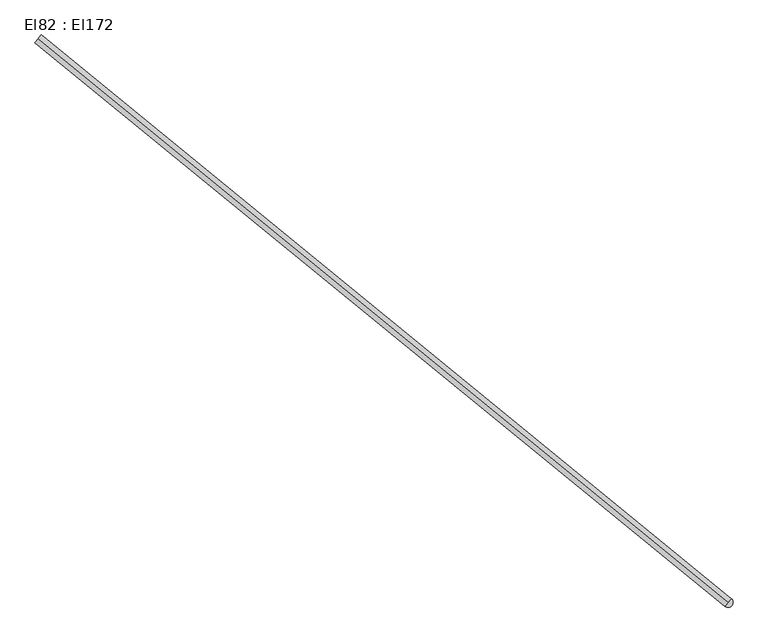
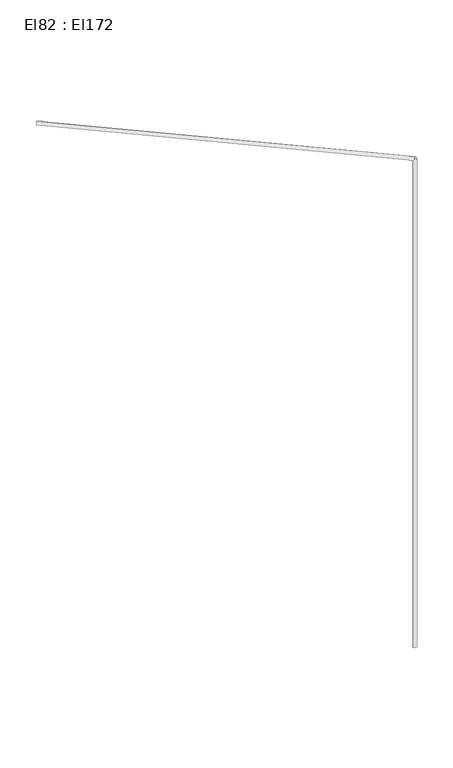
"""IFC4 building model written with IfcOpenShell, lengths in millimetres: cable carrier segment geometry, El82 : El172."""

from ifc_helpers import new_model, si_unit, point, frame, frame_2d, origin, place, context, project, spatial, circle_curve, trimmed, segment, composite_curve, outline, extrude, source, transform, mapped, element, save


def el82_el172_23e03074(model_context):
    return source(origin(), model_context, "Body", "SweptSolid", [
        extrude(outline(composite_curve([segment(trimmed(circle_curve(frame_2d((5364.4726511, 23422.6241745)), 9.5), [point((5354.9726511, 23422.6241745))], [point((5373.9726511, 23422.6241745))], False, "CARTESIAN"), True, "CONTINUOUS"), segment(trimmed(circle_curve(frame_2d((5364.4726511, 23422.6241745)), 9.5), [point((5373.9726511, 23422.6241745))], [point((5354.9726511, 23422.6241745))], False, "CARTESIAN"), True, "CONTINUOUS")], self_intersect=False)), frame((0.0, 0.0, 1830.0), z_axis=(0.0, 0.0, 1.0), x_axis=(1.0, 0.0, 0.0)), (0.0, 0.0, 1.0), 2620.0),
        extrude(outline(composite_curve([segment(trimmed(circle_curve(frame_2d((0.0, -9.5)), 9.5), [point((0.0, -19.0))], [point((0.0, 0.0))], False, "CARTESIAN"), True, "CONTINUOUS"), segment(trimmed(circle_curve(frame_2d((0.0, -9.5)), 9.5), [point((0.0, 0.0))], [point((0.0, -19.0))], False, "CARTESIAN"), True, "CONTINUOUS")], self_intersect=False)), frame((5364.4733842, 23422.6226382, 4459.5), z_axis=(-0.7741869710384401, 0.632956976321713, 0.0), x_axis=(-0.632956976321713, -0.7741869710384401, 0.0)), (0.0, 0.0, 1.0), 1688.46),
    ])


if __name__ == "__main__":
    model = new_model("IFC4")
    model_context = context("Model", 3, world=origin())
    ifc_project = project(units=[si_unit("LENGTHUNIT", "METRE", prefix="MILLI")], contexts=[model_context])
    site = spatial("IfcSite", under=ifc_project)
    building = spatial("IfcBuilding", under=site)
    placement = place(None, origin())
    el82_el172_shape = el82_el172_23e03074(model_context)
    element("IfcCableCarrierSegment", 1, ObjectType="El82 : El172", at=placement, inside=building, context=model_context, shape_type="MappedRepresentation", body=[
        mapped(el82_el172_shape, transform((0.0, 0.0, 0.0), x_axis=(1.0, 0.0, 0.0), y_axis=(0.0, 1.0, 0.0), z_axis=(0.0, 0.0, 1.0))),
    ])
    save(model, "model.ifc")
